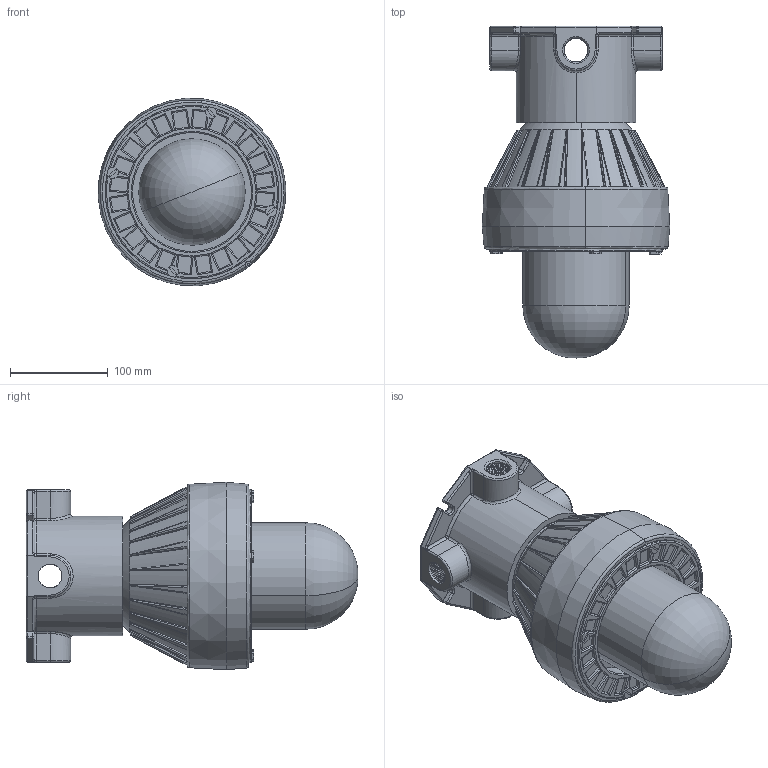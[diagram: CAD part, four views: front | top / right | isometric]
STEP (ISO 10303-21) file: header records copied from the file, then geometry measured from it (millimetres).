
FILE_DESCRIPTION (( 'STEP AP214' ), '1' );
FILE_NAME ('EPSLED-80.STEP', '2019-02-18T22:48:57', ( '' ), ( '' ), 'SwSTEP 2.0', 'SolidWorks 2016', '' );
FILE_SCHEMA (( 'AUTOMOTIVE_DESIGN' ));
Length unit declared in the file: inch
Products named in the file (5): EPSL-80-141_No Pendant; Lens A; Body; EPSL-80-141 Ceiling Mount; EPSLED-80
Assembly tree (4 placements, depth 3):
  EPSLED-80
    EPSL-80-141 Ceiling Mount
    EPSL-80-141_No Pendant
      Body
      Lens A
Bounding box: 192.21 x 340.36 x 192.21 mm (x, y, z)
Volume: 3926622.9 mm3; surface area: 381872.4 mm2
Topology: 3 solids, 3 shells, 912 faces, 2402 edges, 1480 vertices
Faces by surface type: cylinder 419, plane 348, bspline 41, sphere 40, torus 32, cone 32
Entity records: 51158 total; most frequent: CARTESIAN_POINT 23865, ORIENTED_EDGE 4732, DIRECTION 3683, EDGE_CURVE 2366, VERTEX_POINT 1480, AXIS2_PLACEMENT_3D 1266, VECTOR 1151, LINE 1151
